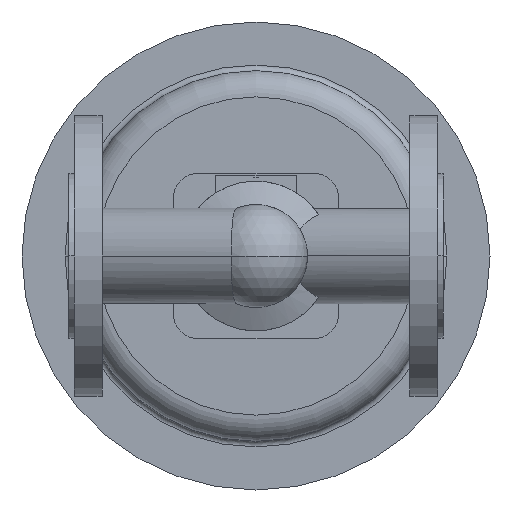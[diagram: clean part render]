
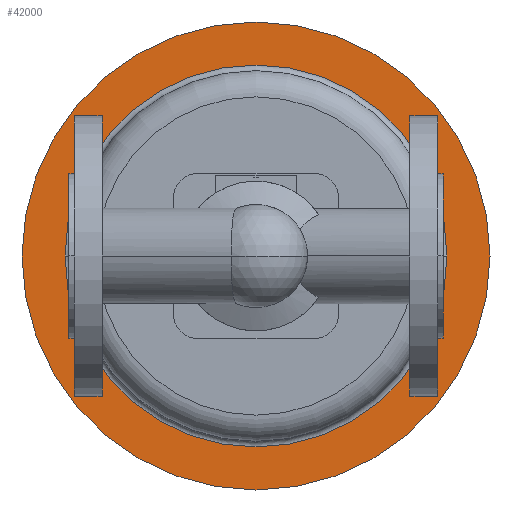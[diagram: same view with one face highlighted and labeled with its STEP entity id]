
A CAD part, front view. The second image highlights one B-rep face of the part: STEP entity #42000.
In plain terms, the highlighted planar face has unit normal (0, -1, 0).
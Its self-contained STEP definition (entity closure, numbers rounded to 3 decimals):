
#33220=CARTESIAN_POINT('',(-25.,390.,0.));
#33230=VERTEX_POINT('',#33220);
#33260=CARTESIAN_POINT('',(100.,390.,0.));
#33270=DIRECTION('',(0.,1.,0.));
#33280=DIRECTION('',(1.,0.,0.));
#33290=AXIS2_PLACEMENT_3D('',#33260,#33270,#33280);
#33300=CIRCLE('',#33290,125.);
#33310=CARTESIAN_POINT('',(225.,390.,0.));
#33320=VERTEX_POINT('',#33310);
#33330=EDGE_CURVE('',#33320,#33230,#33300,.T.);
#33580=CARTESIAN_POINT('',(100.,390.,0.));
#33590=DIRECTION('',(0.,1.,0.));
#33600=DIRECTION('',(1.,0.,0.));
#33610=AXIS2_PLACEMENT_3D('',#33580,#33590,#33600);
#33620=CIRCLE('',#33610,102.);
#33630=CARTESIAN_POINT('',(100.,390.,-102.));
#33640=VERTEX_POINT('',#33630);
#33650=CARTESIAN_POINT('',(-2.,390.,0.));
#33660=VERTEX_POINT('',#33650);
#33670=EDGE_CURVE('',#33640,#33660,#33620,.T.);
#33920=CARTESIAN_POINT('',(202.,390.,0.));
#33930=VERTEX_POINT('',#33920);
#33960=EDGE_CURVE('',#33930,#33640,#33620,.T.);
#41840=CARTESIAN_POINT('',(213.5,390.,0.));
#41850=DIRECTION('',(0.,-1.,0.));
#41860=DIRECTION('',(-1.,0.,0.));
#41870=AXIS2_PLACEMENT_3D('',#41840,#41850,#41860);
#41880=PLANE('',#41870);
#41890=EDGE_CURVE('',#33230,#33320,#33300,.T.);
#41900=ORIENTED_EDGE('',*,*,#41890,.F.);
#41910=ORIENTED_EDGE('',*,*,#33330,.F.);
#41920=EDGE_LOOP('',(#41910,#41900));
#41930=FACE_OUTER_BOUND('',#41920,.T.);
#41940=EDGE_CURVE('',#33660,#33930,#33620,.T.);
#41950=ORIENTED_EDGE('',*,*,#41940,.T.);
#41960=ORIENTED_EDGE('',*,*,#33670,.T.);
#41970=ORIENTED_EDGE('',*,*,#33960,.T.);
#41980=EDGE_LOOP('',(#41970,#41960,#41950));
#41990=FACE_BOUND('',#41980,.T.);
#42000=ADVANCED_FACE('',(#41930,#41990),#41880,.T.);
